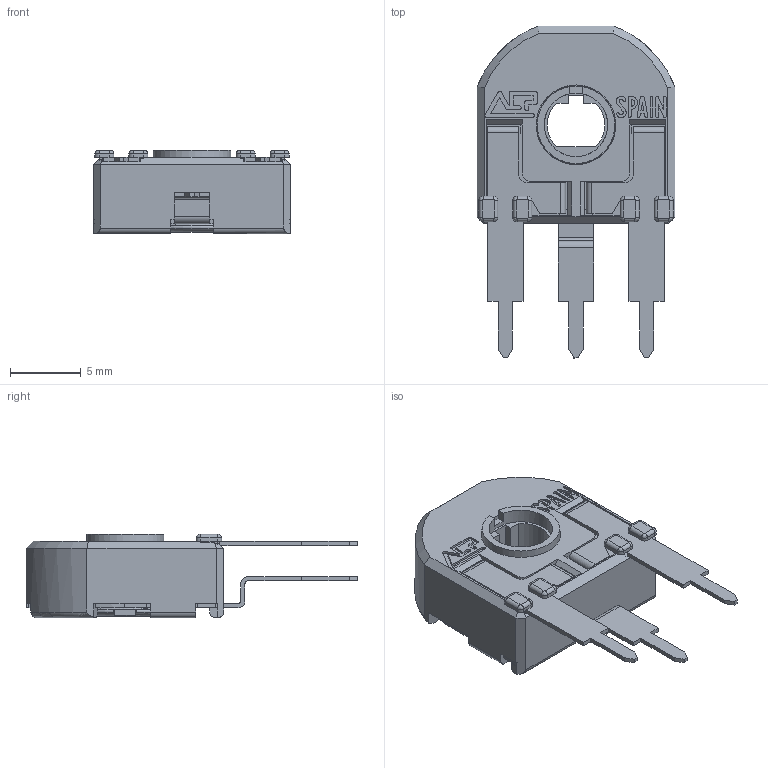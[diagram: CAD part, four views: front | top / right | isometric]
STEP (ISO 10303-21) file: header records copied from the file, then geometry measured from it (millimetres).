
FILE_DESCRIPTION(/* description */ (''),/* implementation_level */ '2;1');
FILE_NAME(/* name */ 'C:\Users\CEM\Desktop\ENVIAR\TRANSICION 3D CATALOGOS\CAR14THA2,5.stp',/* time_stamp */ '2025-09-22T10:01:24+02:00',/* author */ ('CEM'),/* organization */ (''),/* preprocessor_version */ 'ST-DEVELOPER v17',/* originating_system */ 'Autodesk Inventor 2018',/* authorisation */ '');
FILE_SCHEMA (('AUTOMOTIVE_DESIGN { 1 0 10303 214 3 1 1 }'));
Length unit declared in the file: millimetre
Products named in the file (1): CAR14THA2,5
Bounding box: 14 x 23.5 x 5.9 mm (x, y, z)
Volume: 548.3 mm3; surface area: 1571.1 mm2
Topology: 1 solids, 1 shells, 584 faces, 1696 edges, 1088 vertices
Faces by surface type: plane 396, cylinder 140, bspline 20, cone 16, torus 12
Full cylindrical faces by diameter (mm): 1.2 x2, 4.5 x1, 5.5 x1, 5.65 x1, 6.88 x1
Entity records: 19963 total; most frequent: CARTESIAN_POINT 3697, ORIENTED_EDGE 3392, DIRECTION 3183, EDGE_CURVE 1696, LINE 1255, VECTOR 1255, VERTEX_POINT 1088, AXIS2_PLACEMENT_3D 964
